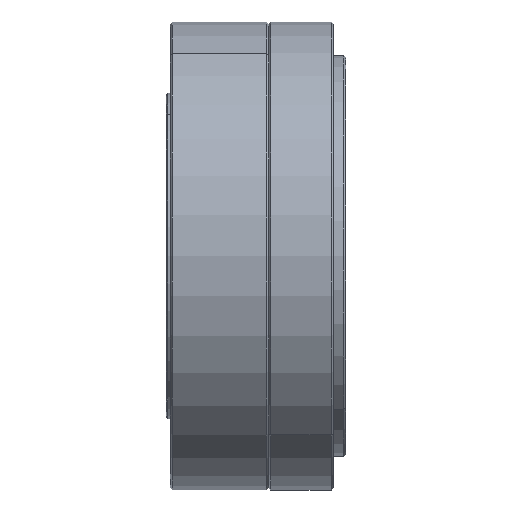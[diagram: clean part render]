
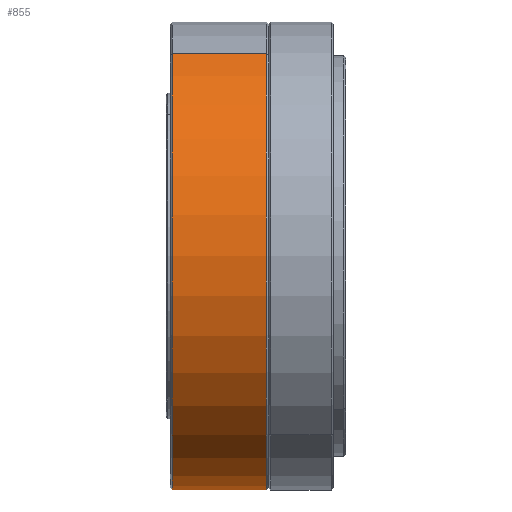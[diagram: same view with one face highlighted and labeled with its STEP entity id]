
A CAD part, top view. The second image highlights one B-rep face of the part: STEP entity #855.
In plain terms, the highlighted cylindrical face has radius 56 mm (diameter 112 mm), a partial arc.
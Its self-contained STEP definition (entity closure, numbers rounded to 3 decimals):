
#855 = ADVANCED_FACE ( 'NONE', ( #20914 ), #20277, .T. ) ;
#1597 = VERTEX_POINT ( 'NONE', #19420 ) ;
#2512 = DIRECTION ( 'NONE',  ( -1., 0., 0. ) ) ;
#2640 = DIRECTION ( 'NONE',  ( -1., 0., 0. ) ) ;
#5560 = VERTEX_POINT ( 'NONE', #7473 ) ;
#6100 = AXIS2_PLACEMENT_3D ( 'NONE', #14431, #2640, #16432 ) ;
#6495 = CARTESIAN_POINT ( 'NONE',  ( -79.215, 48.497, 28. ) ) ;
#6526 = EDGE_CURVE ( 'NONE', #17277, #5560, #18165, .T. ) ;
#7100 = VECTOR ( 'NONE', #2512, 1000. ) ;
#7340 = EDGE_LOOP ( 'NONE', ( #13765, #11334, #25370, #14206 ) ) ;
#7473 = CARTESIAN_POINT ( 'NONE',  ( -19.4, 48.497, 28. ) ) ;
#9949 = DIRECTION ( 'NONE',  ( 1., 0., 0. ) ) ;
#10226 = CARTESIAN_POINT ( 'NONE',  ( -19.4, -48.497, -28. ) ) ;
#10265 = EDGE_CURVE ( 'NONE', #1597, #17179, #10726, .T. ) ;
#10423 = EDGE_CURVE ( 'NONE', #5560, #17179, #23391, .T. ) ;
#10726 = LINE ( 'NONE', #24145, #15361 ) ;
#11334 = ORIENTED_EDGE ( 'NONE', *, *, #12522, .T. ) ;
#11916 = DIRECTION ( 'NONE',  ( 0., 0.866, 0.5 ) ) ;
#12522 = EDGE_CURVE ( 'NONE', #1597, #17277, #18648, .T. ) ;
#13765 = ORIENTED_EDGE ( 'NONE', *, *, #10265, .F. ) ;
#13869 = AXIS2_PLACEMENT_3D ( 'NONE', #21805, #9949, #23768 ) ;
#13881 = CARTESIAN_POINT ( 'NONE',  ( -79.215, 0., 0. ) ) ;
#14206 = ORIENTED_EDGE ( 'NONE', *, *, #10423, .T. ) ;
#14276 = DIRECTION ( 'NONE',  ( -1., 0., 0. ) ) ;
#14431 = CARTESIAN_POINT ( 'NONE',  ( 3.1, 0., 0. ) ) ;
#15361 = VECTOR ( 'NONE', #14276, 1000. ) ;
#16432 = DIRECTION ( 'NONE',  ( 0., -0.866, -0.5 ) ) ;
#16436 = CARTESIAN_POINT ( 'NONE',  ( 3.1, 48.497, 28. ) ) ;
#17125 = AXIS2_PLACEMENT_3D ( 'NONE', #13881, #19848, #11916 ) ;
#17179 = VERTEX_POINT ( 'NONE', #10226 ) ;
#17277 = VERTEX_POINT ( 'NONE', #16436 ) ;
#18165 = LINE ( 'NONE', #6495, #7100 ) ;
#18648 = CIRCLE ( 'NONE', #6100, 56. ) ;
#19420 = CARTESIAN_POINT ( 'NONE',  ( 3.1, -48.497, -28. ) ) ;
#19848 = DIRECTION ( 'NONE',  ( -1., 0., 0. ) ) ;
#20277 = CYLINDRICAL_SURFACE ( 'NONE', #17125, 56. ) ;
#20914 = FACE_OUTER_BOUND ( 'NONE', #7340, .T. ) ;
#21805 = CARTESIAN_POINT ( 'NONE',  ( -19.4, 0., 0. ) ) ;
#23391 = CIRCLE ( 'NONE', #13869, 56. ) ;
#23768 = DIRECTION ( 'NONE',  ( 0., -0.866, -0.5 ) ) ;
#24145 = CARTESIAN_POINT ( 'NONE',  ( -79.215, -48.497, -28. ) ) ;
#25370 = ORIENTED_EDGE ( 'NONE', *, *, #6526, .T. ) ;
